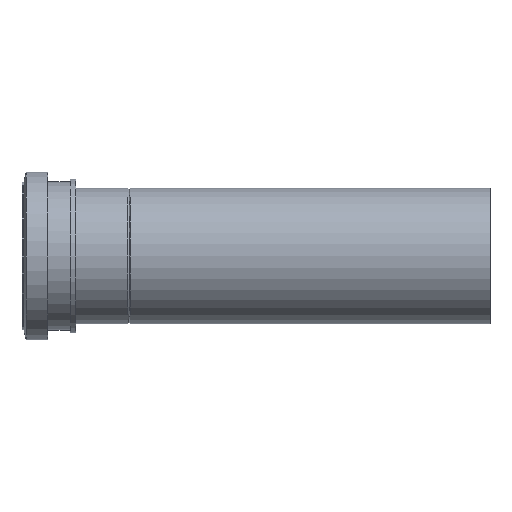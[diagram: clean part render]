
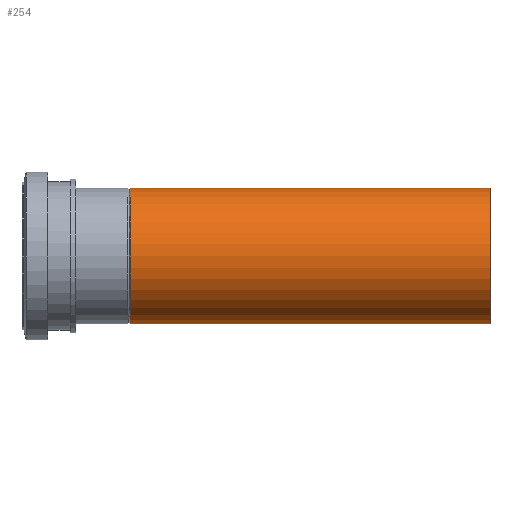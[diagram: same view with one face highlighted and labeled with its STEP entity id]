
A CAD part, front view. The second image highlights one B-rep face of the part: STEP entity #254.
In plain terms, the highlighted cylindrical face has radius 45 mm (diameter 90 mm), a full revolution.
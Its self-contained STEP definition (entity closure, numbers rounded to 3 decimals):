
#29=CYLINDRICAL_SURFACE($,#301,45.);
#54=FACE_BOUND($,#117,.T.);
#73=FACE_OUTER_BOUND($,#116,.T.);
#116=EDGE_LOOP($,(#226));
#117=EDGE_LOOP($,(#227));
#118=CIRCLE($,#259,45.);
#123=CIRCLE($,#267,45.);
#140=VERTEX_POINT($,#394);
#145=VERTEX_POINT($,#407);
#162=EDGE_CURVE($,#140,#140,#118,.T.);
#167=EDGE_CURVE($,#145,#145,#123,.T.);
#226=ORIENTED_EDGE($,*,*,#162,.T.);
#227=ORIENTED_EDGE($,*,*,#167,.F.);
#254=ADVANCED_FACE($,(#73,#54),#29,.T.);
#259=AXIS2_PLACEMENT_3D($,#395,#306,#307);
#267=AXIS2_PLACEMENT_3D($,#408,#322,#323);
#301=AXIS2_PLACEMENT_3D($,#458,#390,#391);
#306=DIRECTION('center_axis',(1.,0.,0.));
#307=DIRECTION('ref_axis',(0.,1.,0.));
#322=DIRECTION('center_axis',(1.,0.,0.));
#323=DIRECTION('ref_axis',(0.,1.,0.));
#390=DIRECTION('center_axis',(1.,0.,0.));
#391=DIRECTION('ref_axis',(0.,1.,0.));
#394=CARTESIAN_POINT('',(71.8,45.,0.));
#395=CARTESIAN_POINT('Origin',(71.8,0.,0.));
#407=CARTESIAN_POINT('',(310.,45.,0.));
#408=CARTESIAN_POINT('Origin',(310.,0.,0.));
#458=CARTESIAN_POINT('Origin',(172.75,0.,0.));
